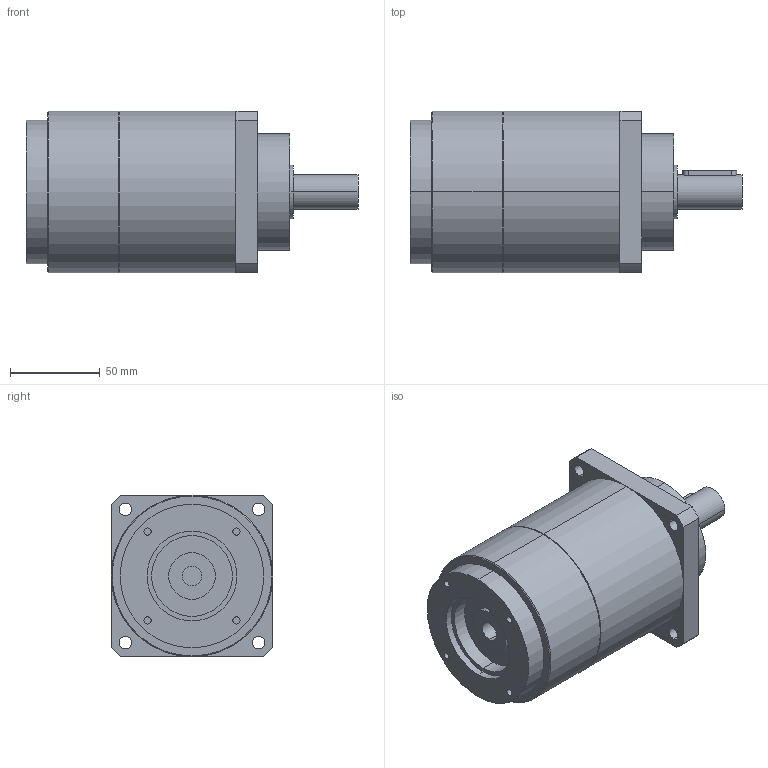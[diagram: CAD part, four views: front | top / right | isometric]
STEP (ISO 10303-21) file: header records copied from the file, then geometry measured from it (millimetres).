
FILE_DESCRIPTION(('CoCreate Modeling STEP Export'),'2;1');
FILE_NAME('GPT90_ig-9-12-16-20-25-28-35-40-50-70-100_19_B5T_11_P22.stp','2015-02-04T11:24:37',(''),(''),'CoCreate Modeling STEP processor for AP214 (Solid Model)','CoCreate Modeling 16.00C 25-Feb-2009 (C) Parametric Technology GmbH','');
FILE_SCHEMA(('AUTOMOTIVE_DESIGN { 1 0 10303 214 1 1 1 1 }'));
Length unit declared in the file: millimetre
Products named in the file (2): GPT90_ig-9-12-16-20-25-28-35-40-50-70-100_19_B5T_11_P22
Assembly tree (1 placements, depth 2):
  GPT90_ig-9-12-16-20-25-28-35-40-50-70-100_19_B5T_11_P22
    GPT90_ig-9-12-16-20-25-28-35-40-50-70-100_19_B5T_11_P22
Bounding box: 185 x 90 x 90 mm (x, y, z)
Volume: 871373.7 mm3; surface area: 64152.9 mm2
Topology: 1 solids, 1 shells, 75 faces, 190 edges, 131 vertices
Faces by surface type: cylinder 44, plane 27, cone 4
Entity records: 2388 total; most frequent: CARTESIAN_POINT 704, ORIENTED_EDGE 380, DIRECTION 282, EDGE_CURVE 190, VERTEX_POINT 131, AXIS2_PLACEMENT_3D 106, EDGE_LOOP 97, FACE_OUTER_BOUND 75
